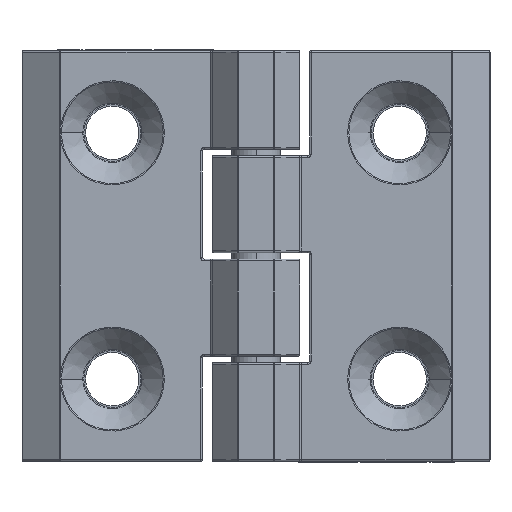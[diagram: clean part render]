
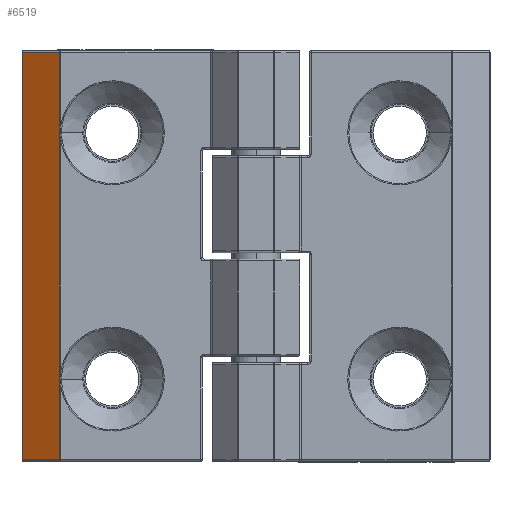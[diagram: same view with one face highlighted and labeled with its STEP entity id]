
A CAD part, top view. The second image highlights one B-rep face of the part: STEP entity #6519.
In plain terms, the highlighted planar face has unit normal (-0.542, 0, 0.841).
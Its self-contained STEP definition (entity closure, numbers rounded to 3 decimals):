
#26 = CARTESIAN_POINT ( 'NONE',  ( -28.5, 49.8, -2.65 ) ) ;
#160 = DIRECTION ( 'NONE',  ( -0.841, 0., -0.542 ) ) ;
#1066 = CARTESIAN_POINT ( 'NONE',  ( -28.408, 49.8, -2.591 ) ) ;
#1543 = VERTEX_POINT ( 'NONE', #4441 ) ;
#2067 = CARTESIAN_POINT ( 'NONE',  ( -28.408, 50., -2.591 ) ) ;
#3204 = LINE ( 'NONE', #26, #6523 ) ;
#3607 = EDGE_LOOP ( 'NONE', ( #7770, #12021, #11625, #7870 ) ) ;
#3722 = VECTOR ( 'NONE', #10208, 1000. ) ;
#3923 = VECTOR ( 'NONE', #8258, 1000. ) ;
#4112 = LINE ( 'NONE', #15121, #3722 ) ;
#4441 = CARTESIAN_POINT ( 'NONE',  ( -28.408, 0.2, -2.591 ) ) ;
#5817 = DIRECTION ( 'NONE',  ( 0., -1., 0. ) ) ;
#5905 = CARTESIAN_POINT ( 'NONE',  ( -23.899, 49.8, 0.314 ) ) ;
#6478 = CARTESIAN_POINT ( 'NONE',  ( -28.5, 50., -2.65 ) ) ;
#6519 = ADVANCED_FACE ( 'NONE', ( #9075 ), #9632, .F. ) ;
#6523 = VECTOR ( 'NONE', #160, 1000. ) ;
#6674 = EDGE_CURVE ( 'NONE', #15546, #8047, #3204, .T. ) ;
#7770 = ORIENTED_EDGE ( 'NONE', *, *, #6674, .T. ) ;
#7870 = ORIENTED_EDGE ( 'NONE', *, *, #10890, .T. ) ;
#8047 = VERTEX_POINT ( 'NONE', #1066 ) ;
#8258 = DIRECTION ( 'NONE',  ( 0., 1., 0. ) ) ;
#8714 = VERTEX_POINT ( 'NONE', #10210 ) ;
#9075 = FACE_OUTER_BOUND ( 'NONE', #3607, .T. ) ;
#9527 = CARTESIAN_POINT ( 'NONE',  ( -23.899, 50., 0.314 ) ) ;
#9632 = PLANE ( 'NONE',  #11125 ) ;
#10141 = VECTOR ( 'NONE', #5817, 1000. ) ;
#10208 = DIRECTION ( 'NONE',  ( 0.841, 0., 0.542 ) ) ;
#10210 = CARTESIAN_POINT ( 'NONE',  ( -23.899, 0.2, 0.314 ) ) ;
#10545 = LINE ( 'NONE', #9527, #3923 ) ;
#10890 = EDGE_CURVE ( 'NONE', #8714, #15546, #10545, .T. ) ;
#10918 = EDGE_CURVE ( 'NONE', #8047, #1543, #13426, .T. ) ;
#11064 = EDGE_CURVE ( 'NONE', #1543, #8714, #4112, .T. ) ;
#11125 = AXIS2_PLACEMENT_3D ( 'NONE', #6478, #11488, #12594 ) ;
#11488 = DIRECTION ( 'NONE',  ( 0.542, 0., -0.841 ) ) ;
#11625 = ORIENTED_EDGE ( 'NONE', *, *, #11064, .T. ) ;
#12021 = ORIENTED_EDGE ( 'NONE', *, *, #10918, .T. ) ;
#12594 = DIRECTION ( 'NONE',  ( -0.841, 0., -0.542 ) ) ;
#13426 = LINE ( 'NONE', #2067, #10141 ) ;
#15121 = CARTESIAN_POINT ( 'NONE',  ( -28.5, 0.2, -2.65 ) ) ;
#15546 = VERTEX_POINT ( 'NONE', #5905 ) ;
